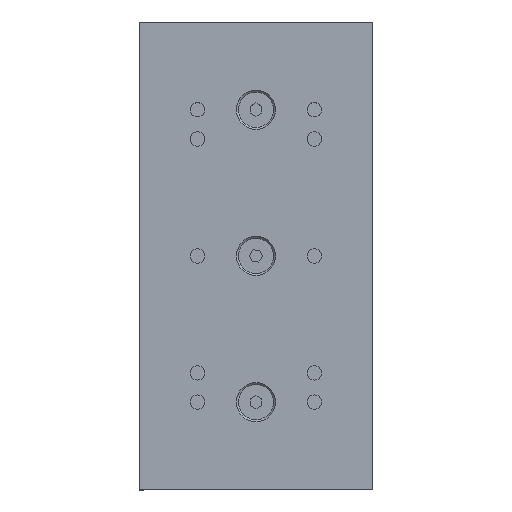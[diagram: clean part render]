
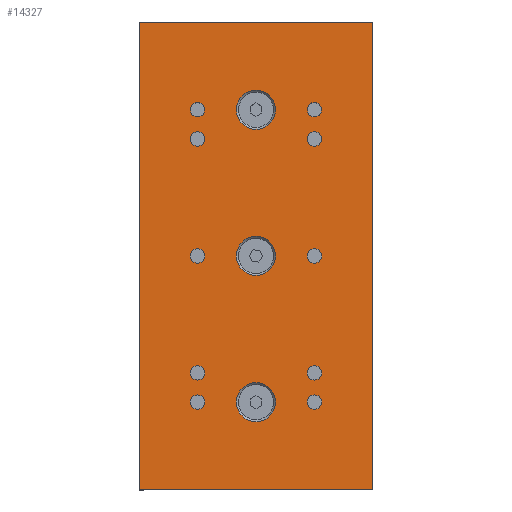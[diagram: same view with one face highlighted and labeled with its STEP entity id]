
A CAD part, top view. The second image highlights one B-rep face of the part: STEP entity #14327.
In plain terms, the highlighted planar face has unit normal (0, 0, 1) as drawn and (0, 1, 0) by its records, which use the part's own axes.
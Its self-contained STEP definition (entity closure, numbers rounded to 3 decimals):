
#268=FACE_BOUND('',#1586,.T.);
#269=FACE_BOUND('',#1587,.T.);
#270=FACE_BOUND('',#1588,.T.);
#271=FACE_BOUND('',#1589,.T.);
#272=FACE_BOUND('',#1590,.T.);
#273=FACE_BOUND('',#1591,.T.);
#274=FACE_BOUND('',#1592,.T.);
#275=FACE_BOUND('',#1593,.T.);
#276=FACE_BOUND('',#1594,.T.);
#277=FACE_BOUND('',#1595,.T.);
#278=FACE_BOUND('',#1596,.T.);
#279=FACE_BOUND('',#1597,.T.);
#280=FACE_BOUND('',#1598,.T.);
#796=FACE_OUTER_BOUND('',#1585,.T.);
#1585=EDGE_LOOP('',(#10504,#10505,#10506,#10507));
#1586=EDGE_LOOP('',(#10508));
#1587=EDGE_LOOP('',(#10509));
#1588=EDGE_LOOP('',(#10510));
#1589=EDGE_LOOP('',(#10511));
#1590=EDGE_LOOP('',(#10512));
#1591=EDGE_LOOP('',(#10513));
#1592=EDGE_LOOP('',(#10514));
#1593=EDGE_LOOP('',(#10515));
#1594=EDGE_LOOP('',(#10516));
#1595=EDGE_LOOP('',(#10517));
#1596=EDGE_LOOP('',(#10518));
#1597=EDGE_LOOP('',(#10519));
#1598=EDGE_LOOP('',(#10520));
#2305=CIRCLE('',#15476,1.23);
#2307=CIRCLE('',#15479,1.23);
#2309=CIRCLE('',#15482,1.23);
#2311=CIRCLE('',#15485,1.23);
#2313=CIRCLE('',#15488,1.23);
#2315=CIRCLE('',#15491,1.23);
#2317=CIRCLE('',#15494,1.23);
#2319=CIRCLE('',#15497,1.23);
#2321=CIRCLE('',#15500,1.23);
#2323=CIRCLE('',#15503,1.23);
#2325=CIRCLE('',#15506,3.35);
#2328=CIRCLE('',#15511,3.35);
#2331=CIRCLE('',#15516,3.35);
#2937=LINE('',#21289,#4519);
#2950=LINE('',#21314,#4532);
#2951=LINE('',#21317,#4533);
#2952=LINE('',#21318,#4534);
#4519=VECTOR('',#17730,10.);
#4532=VECTOR('',#17747,10.);
#4533=VECTOR('',#17750,10.);
#4534=VECTOR('',#17751,10.);
#6048=VERTEX_POINT('',#21191);
#6050=VERTEX_POINT('',#21197);
#6052=VERTEX_POINT('',#21203);
#6054=VERTEX_POINT('',#21209);
#6056=VERTEX_POINT('',#21215);
#6058=VERTEX_POINT('',#21221);
#6060=VERTEX_POINT('',#21227);
#6062=VERTEX_POINT('',#21233);
#6064=VERTEX_POINT('',#21239);
#6066=VERTEX_POINT('',#21245);
#6068=VERTEX_POINT('',#21251);
#6071=VERTEX_POINT('',#21261);
#6074=VERTEX_POINT('',#21271);
#6080=VERTEX_POINT('',#21286);
#6081=VERTEX_POINT('',#21288);
#6091=VERTEX_POINT('',#21312);
#6092=VERTEX_POINT('',#21316);
#7633=EDGE_CURVE('',#6048,#6048,#2305,.T.);
#7636=EDGE_CURVE('',#6050,#6050,#2307,.T.);
#7639=EDGE_CURVE('',#6052,#6052,#2309,.T.);
#7642=EDGE_CURVE('',#6054,#6054,#2311,.T.);
#7645=EDGE_CURVE('',#6056,#6056,#2313,.T.);
#7648=EDGE_CURVE('',#6058,#6058,#2315,.T.);
#7651=EDGE_CURVE('',#6060,#6060,#2317,.T.);
#7654=EDGE_CURVE('',#6062,#6062,#2319,.T.);
#7657=EDGE_CURVE('',#6064,#6064,#2321,.T.);
#7660=EDGE_CURVE('',#6066,#6066,#2323,.T.);
#7663=EDGE_CURVE('',#6068,#6068,#2325,.T.);
#7668=EDGE_CURVE('',#6071,#6071,#2328,.T.);
#7673=EDGE_CURVE('',#6074,#6074,#2331,.T.);
#7681=EDGE_CURVE('',#6080,#6081,#2937,.T.);
#7694=EDGE_CURVE('',#6080,#6091,#2950,.T.);
#7695=EDGE_CURVE('',#6092,#6091,#2951,.T.);
#7696=EDGE_CURVE('',#6081,#6092,#2952,.T.);
#10504=ORIENTED_EDGE('',*,*,#7694,.T.);
#10505=ORIENTED_EDGE('',*,*,#7695,.F.);
#10506=ORIENTED_EDGE('',*,*,#7696,.F.);
#10507=ORIENTED_EDGE('',*,*,#7681,.F.);
#10508=ORIENTED_EDGE('',*,*,#7633,.T.);
#10509=ORIENTED_EDGE('',*,*,#7636,.T.);
#10510=ORIENTED_EDGE('',*,*,#7639,.T.);
#10511=ORIENTED_EDGE('',*,*,#7642,.T.);
#10512=ORIENTED_EDGE('',*,*,#7645,.T.);
#10513=ORIENTED_EDGE('',*,*,#7648,.T.);
#10514=ORIENTED_EDGE('',*,*,#7651,.T.);
#10515=ORIENTED_EDGE('',*,*,#7654,.T.);
#10516=ORIENTED_EDGE('',*,*,#7657,.T.);
#10517=ORIENTED_EDGE('',*,*,#7660,.T.);
#10518=ORIENTED_EDGE('',*,*,#7663,.T.);
#10519=ORIENTED_EDGE('',*,*,#7668,.T.);
#10520=ORIENTED_EDGE('',*,*,#7673,.T.);
#12951=PLANE('',#15523);
#14327=ADVANCED_FACE('',(#796,#268,#269,#270,#271,#272,#273,#274,#275,#276,
#277,#278,#279,#280),#12951,.T.);
#15476=AXIS2_PLACEMENT_3D('',#21192,#17621,#17622);
#15479=AXIS2_PLACEMENT_3D('',#21198,#17628,#17629);
#15482=AXIS2_PLACEMENT_3D('',#21204,#17635,#17636);
#15485=AXIS2_PLACEMENT_3D('',#21210,#17642,#17643);
#15488=AXIS2_PLACEMENT_3D('',#21216,#17649,#17650);
#15491=AXIS2_PLACEMENT_3D('',#21222,#17656,#17657);
#15494=AXIS2_PLACEMENT_3D('',#21228,#17663,#17664);
#15497=AXIS2_PLACEMENT_3D('',#21234,#17670,#17671);
#15500=AXIS2_PLACEMENT_3D('',#21240,#17677,#17678);
#15503=AXIS2_PLACEMENT_3D('',#21246,#17684,#17685);
#15506=AXIS2_PLACEMENT_3D('',#21252,#17691,#17692);
#15511=AXIS2_PLACEMENT_3D('',#21262,#17703,#17704);
#15516=AXIS2_PLACEMENT_3D('',#21272,#17715,#17716);
#15523=AXIS2_PLACEMENT_3D('',#21315,#17748,#17749);
#17621=DIRECTION('center_axis',(0.,-1.,0.));
#17622=DIRECTION('ref_axis',(1.,0.,0.));
#17628=DIRECTION('center_axis',(0.,-1.,0.));
#17629=DIRECTION('ref_axis',(1.,0.,0.));
#17635=DIRECTION('center_axis',(0.,-1.,0.));
#17636=DIRECTION('ref_axis',(1.,0.,0.));
#17642=DIRECTION('center_axis',(0.,-1.,0.));
#17643=DIRECTION('ref_axis',(1.,0.,0.));
#17649=DIRECTION('center_axis',(0.,-1.,0.));
#17650=DIRECTION('ref_axis',(1.,0.,0.));
#17656=DIRECTION('center_axis',(0.,-1.,0.));
#17657=DIRECTION('ref_axis',(1.,0.,0.));
#17663=DIRECTION('center_axis',(0.,-1.,0.));
#17664=DIRECTION('ref_axis',(1.,0.,0.));
#17670=DIRECTION('center_axis',(0.,-1.,0.));
#17671=DIRECTION('ref_axis',(1.,0.,0.));
#17677=DIRECTION('center_axis',(0.,-1.,0.));
#17678=DIRECTION('ref_axis',(1.,0.,0.));
#17684=DIRECTION('center_axis',(0.,-1.,0.));
#17685=DIRECTION('ref_axis',(1.,0.,0.));
#17691=DIRECTION('center_axis',(0.,-1.,0.));
#17692=DIRECTION('ref_axis',(1.,0.,0.));
#17703=DIRECTION('center_axis',(0.,-1.,0.));
#17704=DIRECTION('ref_axis',(1.,0.,0.));
#17715=DIRECTION('center_axis',(0.,-1.,0.));
#17716=DIRECTION('ref_axis',(1.,0.,0.));
#17730=DIRECTION('',(1.,0.,0.));
#17747=DIRECTION('',(0.,0.,1.));
#17748=DIRECTION('center_axis',(0.,1.,0.));
#17749=DIRECTION('ref_axis',(-1.,0.,0.));
#17750=DIRECTION('',(-1.,0.,0.));
#17751=DIRECTION('',(0.,0.,1.));
#21191=CARTESIAN_POINT('',(28.771,14.,20.));
#21192=CARTESIAN_POINT('Origin',(30.,14.,20.));
#21197=CARTESIAN_POINT('',(8.771,14.,20.));
#21198=CARTESIAN_POINT('Origin',(10.,14.,20.));
#21203=CARTESIAN_POINT('',(8.771,14.,-20.));
#21204=CARTESIAN_POINT('Origin',(10.,14.,-20.));
#21209=CARTESIAN_POINT('',(28.771,14.,-20.));
#21210=CARTESIAN_POINT('Origin',(30.,14.,-20.));
#21215=CARTESIAN_POINT('',(8.77,14.,0.));
#21216=CARTESIAN_POINT('Origin',(10.,14.,0.));
#21221=CARTESIAN_POINT('',(28.771,14.,-25.));
#21222=CARTESIAN_POINT('Origin',(30.,14.,-25.));
#21227=CARTESIAN_POINT('',(8.77,14.,25.));
#21228=CARTESIAN_POINT('Origin',(10.,14.,25.));
#21233=CARTESIAN_POINT('',(8.77,14.,-25.));
#21234=CARTESIAN_POINT('Origin',(10.,14.,-25.));
#21239=CARTESIAN_POINT('',(28.771,14.,25.));
#21240=CARTESIAN_POINT('Origin',(30.,14.,25.));
#21245=CARTESIAN_POINT('',(28.771,14.,0.));
#21246=CARTESIAN_POINT('Origin',(30.,14.,0.));
#21251=CARTESIAN_POINT('',(16.65,14.,-25.));
#21252=CARTESIAN_POINT('Origin',(20.,14.,-25.));
#21261=CARTESIAN_POINT('',(16.65,14.,25.));
#21262=CARTESIAN_POINT('Origin',(20.,14.,25.));
#21271=CARTESIAN_POINT('',(16.65,14.,0.));
#21272=CARTESIAN_POINT('Origin',(20.,14.,0.));
#21286=CARTESIAN_POINT('',(0.,14.,-40.));
#21288=CARTESIAN_POINT('',(40.,14.,-40.));
#21289=CARTESIAN_POINT('',(40.,14.,-40.));
#21312=CARTESIAN_POINT('',(0.,14.,40.));
#21314=CARTESIAN_POINT('',(0.,14.,0.));
#21315=CARTESIAN_POINT('Origin',(40.,14.,0.));
#21316=CARTESIAN_POINT('',(40.,14.,40.));
#21317=CARTESIAN_POINT('',(40.,14.,40.));
#21318=CARTESIAN_POINT('',(40.,14.,0.));
